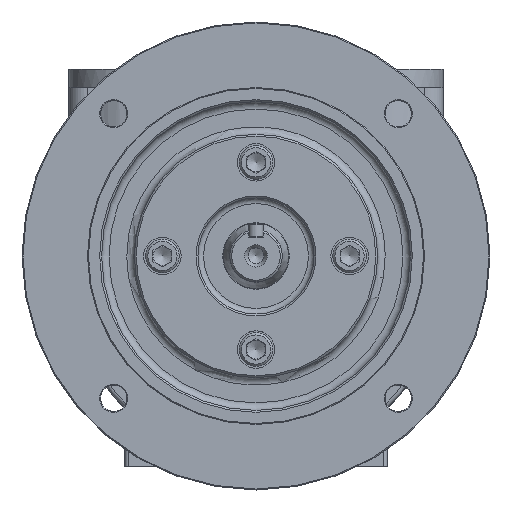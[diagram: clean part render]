
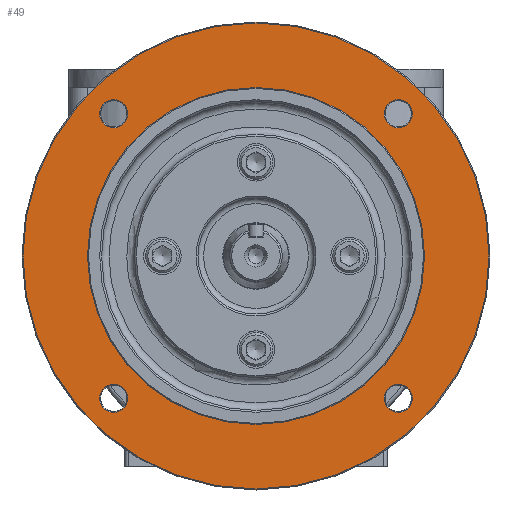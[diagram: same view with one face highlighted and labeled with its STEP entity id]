
A CAD part, top view. The second image highlights one B-rep face of the part: STEP entity #49.
In plain terms, the highlighted planar face has unit normal (0, 0, 1).
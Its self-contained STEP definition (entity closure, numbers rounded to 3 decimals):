
#49 = ADVANCED_FACE ( 'NONE', ( #44286, #41951, #13521, #27732, #34501, #31205 ), #28186, .T. ) ;
#822 = AXIS2_PLACEMENT_3D ( 'NONE', #35000, #24224, #24950 ) ;
#1196 = CARTESIAN_POINT ( 'NONE',  ( -68.514, -66.014, 140.05 ) ) ;
#1237 = AXIS2_PLACEMENT_3D ( 'NONE', #23150, #45283, #7085 ) ;
#1685 = AXIS2_PLACEMENT_3D ( 'NONE', #45434, #39141, #39366 ) ;
#2627 = CARTESIAN_POINT ( 'NONE',  ( -76.014, 86.014, 140.05 ) ) ;
#3044 = CARTESIAN_POINT ( 'NONE',  ( 0., 100., 140.05 ) ) ;
#3373 = ORIENTED_EDGE ( 'NONE', *, *, #30864, .T. ) ;
#4512 = EDGE_LOOP ( 'NONE', ( #21419 ) ) ;
#4650 = VERTEX_POINT ( 'NONE', #18138 ) ;
#4751 = CIRCLE ( 'NONE', #21047, 124.5 ) ;
#5156 = AXIS2_PLACEMENT_3D ( 'NONE', #17609, #28367, #13676 ) ;
#5337 = AXIS2_PLACEMENT_3D ( 'NONE', #2627, #17029, #27083 ) ;
#5494 = EDGE_CURVE ( 'NONE', #34736, #34736, #4751, .T. ) ;
#5940 = VERTEX_POINT ( 'NONE', #9884 ) ;
#6070 = CARTESIAN_POINT ( 'NONE',  ( -68.514, 86.014, 140.05 ) ) ;
#6559 = CARTESIAN_POINT ( 'NONE',  ( -124.5, 10., 140.05 ) ) ;
#7085 = DIRECTION ( 'NONE',  ( 1., 0., 0. ) ) ;
#8618 = VERTEX_POINT ( 'NONE', #9313 ) ;
#8869 = CIRCLE ( 'NONE', #5156, 7.5 ) ;
#9227 = EDGE_CURVE ( 'NONE', #17951, #17951, #23206, .T. ) ;
#9313 = CARTESIAN_POINT ( 'NONE',  ( 83.514, -66.014, 140.05 ) ) ;
#9348 = EDGE_LOOP ( 'NONE', ( #32245 ) ) ;
#9884 = CARTESIAN_POINT ( 'NONE',  ( 83.514, 86.014, 140.05 ) ) ;
#10021 = DIRECTION ( 'NONE',  ( 1., 0., 0. ) ) ;
#13521 = FACE_BOUND ( 'NONE', #26148, .T. ) ;
#13676 = DIRECTION ( 'NONE',  ( 1., 0., 0. ) ) ;
#13905 = DIRECTION ( 'NONE',  ( 0., 0., -1. ) ) ;
#16164 = EDGE_LOOP ( 'NONE', ( #3373 ) ) ;
#16950 = VERTEX_POINT ( 'NONE', #6070 ) ;
#16974 = DIRECTION ( 'NONE',  ( 0., 0., 1. ) ) ;
#17029 = DIRECTION ( 'NONE',  ( 0., 0., -1. ) ) ;
#17609 = CARTESIAN_POINT ( 'NONE',  ( 76.014, -66.014, 140.05 ) ) ;
#17951 = VERTEX_POINT ( 'NONE', #1196 ) ;
#18138 = CARTESIAN_POINT ( 'NONE',  ( -90., 10., 140.05 ) ) ;
#18293 = EDGE_CURVE ( 'NONE', #8618, #8618, #8869, .T. ) ;
#20487 = CIRCLE ( 'NONE', #1237, 7.5 ) ;
#21047 = AXIS2_PLACEMENT_3D ( 'NONE', #35350, #13905, #39323 ) ;
#21419 = ORIENTED_EDGE ( 'NONE', *, *, #18293, .T. ) ;
#23150 = CARTESIAN_POINT ( 'NONE',  ( 76.014, 86.014, 140.05 ) ) ;
#23206 = CIRCLE ( 'NONE', #1685, 7.5 ) ;
#24224 = DIRECTION ( 'NONE',  ( 0., 0., -1. ) ) ;
#24950 = DIRECTION ( 'NONE',  ( -1., 0., 0. ) ) ;
#25405 = CIRCLE ( 'NONE', #5337, 7.5 ) ;
#25673 = EDGE_CURVE ( 'NONE', #16950, #16950, #25405, .T. ) ;
#26148 = EDGE_LOOP ( 'NONE', ( #39006 ) ) ;
#26533 = AXIS2_PLACEMENT_3D ( 'NONE', #3044, #16974, #10021 ) ;
#27083 = DIRECTION ( 'NONE',  ( 1., 0., 0. ) ) ;
#27732 = FACE_BOUND ( 'NONE', #4512, .T. ) ;
#28186 = PLANE ( 'NONE',  #26533 ) ;
#28367 = DIRECTION ( 'NONE',  ( 0., 0., -1. ) ) ;
#29962 = EDGE_LOOP ( 'NONE', ( #36246 ) ) ;
#30864 = EDGE_CURVE ( 'NONE', #4650, #4650, #34294, .T. ) ;
#31205 = FACE_BOUND ( 'NONE', #9348, .T. ) ;
#32245 = ORIENTED_EDGE ( 'NONE', *, *, #25673, .T. ) ;
#34294 = CIRCLE ( 'NONE', #822, 90. ) ;
#34501 = FACE_BOUND ( 'NONE', #44719, .T. ) ;
#34736 = VERTEX_POINT ( 'NONE', #6559 ) ;
#35000 = CARTESIAN_POINT ( 'NONE',  ( 0., 10., 140.05 ) ) ;
#35350 = CARTESIAN_POINT ( 'NONE',  ( 0., 10., 140.05 ) ) ;
#36246 = ORIENTED_EDGE ( 'NONE', *, *, #5494, .F. ) ;
#38793 = EDGE_CURVE ( 'NONE', #5940, #5940, #20487, .T. ) ;
#39006 = ORIENTED_EDGE ( 'NONE', *, *, #38793, .T. ) ;
#39141 = DIRECTION ( 'NONE',  ( 0., 0., -1. ) ) ;
#39323 = DIRECTION ( 'NONE',  ( -1., 0., 0. ) ) ;
#39366 = DIRECTION ( 'NONE',  ( 1., 0., 0. ) ) ;
#41049 = ORIENTED_EDGE ( 'NONE', *, *, #9227, .T. ) ;
#41951 = FACE_BOUND ( 'NONE', #16164, .T. ) ;
#44286 = FACE_OUTER_BOUND ( 'NONE', #29962, .T. ) ;
#44719 = EDGE_LOOP ( 'NONE', ( #41049 ) ) ;
#45283 = DIRECTION ( 'NONE',  ( 0., 0., -1. ) ) ;
#45434 = CARTESIAN_POINT ( 'NONE',  ( -76.014, -66.014, 140.05 ) ) ;
